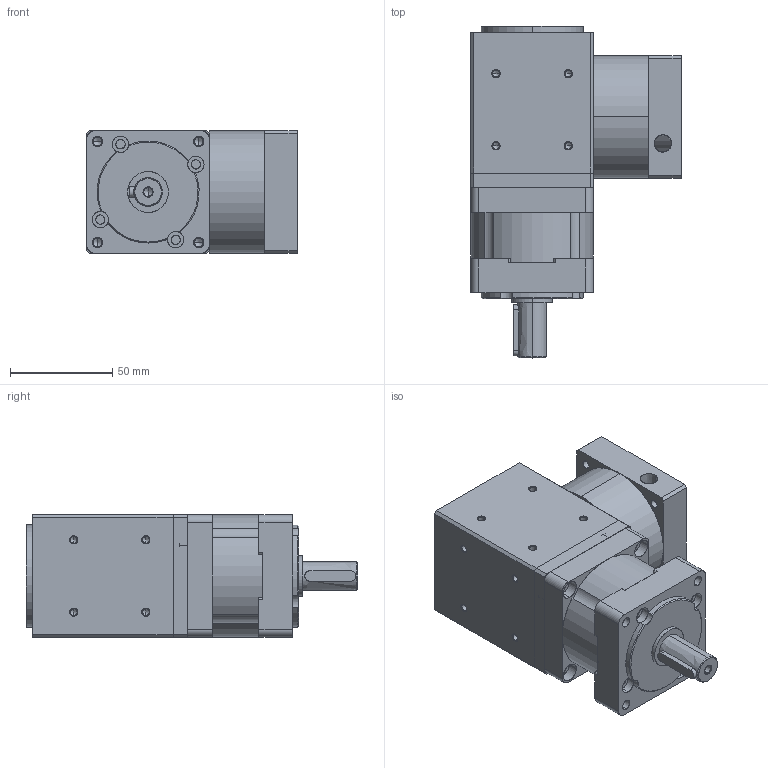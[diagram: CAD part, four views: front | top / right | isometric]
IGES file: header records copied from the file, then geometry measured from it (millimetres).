
Start section: SolidWorks IGES file using analytic representation for surfaces
Global section: file name: Z:\CAD Files\Gearboxes\R-Gearboxes\QXAS\QLAS\QLAS-060-XXX\QLAS-060-000-SMBAC21-Rev2.IGS; native system: SolidWorks 2015; preprocessor: SolidWorks 2015; author: RENDER; date: 150729.114643; units: millimetre
Bounding box: 103 x 162.5 x 60 mm (x, y, z)
Surface area: 104086 mm2 (no closed solid volume)
Topology: 0 solids, 0 shells, 462 faces, 8710 edges, 8658 vertices
Faces by surface type: revolution 345, bspline 117
